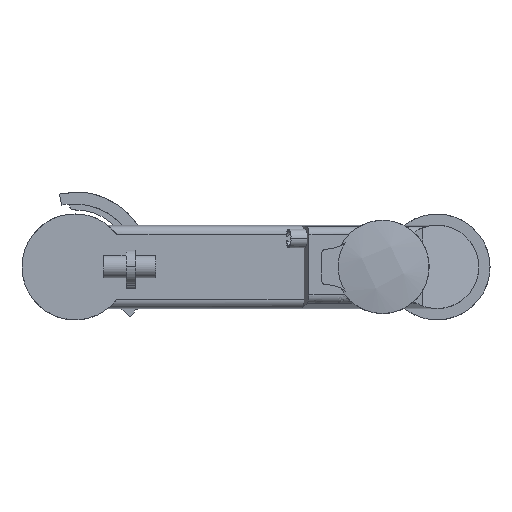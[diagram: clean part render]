
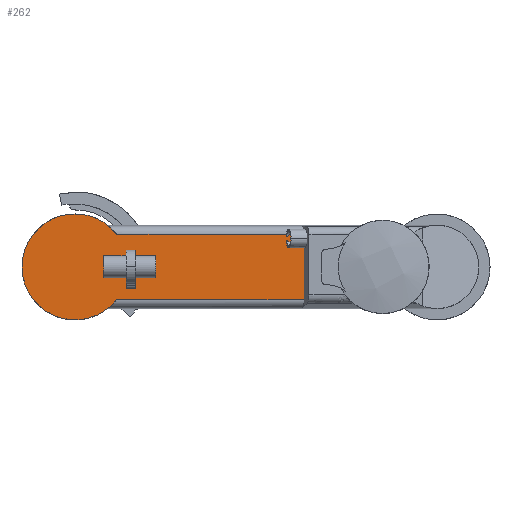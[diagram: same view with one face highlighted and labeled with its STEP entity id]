
A CAD part, top view. The second image highlights one B-rep face of the part: STEP entity #262.
In plain terms, the highlighted planar face has unit normal (0, 0, 1).
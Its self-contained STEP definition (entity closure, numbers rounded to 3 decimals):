
#13 = EDGE_CURVE ( 'NONE', #11864, #14, #3080, .T. ) ;
#14 = VERTEX_POINT ( 'NONE', #3081 ) ;
#18 = VERTEX_POINT ( 'NONE', #3124 ) ;
#19 = EDGE_CURVE ( 'NONE', #1159, #18, #3123, .T. ) ;
#38 = EDGE_CURVE ( 'NONE', #14, #1136, #3142, .T. ) ;
#236 = ORIENTED_EDGE ( 'NONE', *, *, #11726, .F. ) ;
#237 = ORIENTED_EDGE ( 'NONE', *, *, #11706, .F. ) ;
#238 = ORIENTED_EDGE ( 'NONE', *, *, #11672, .F. ) ;
#239 = ORIENTED_EDGE ( 'NONE', *, *, #11738, .F. ) ;
#240 = EDGE_LOOP ( 'NONE', ( #241, #242, #243, #244, #245, #246, #247, #248, #249, #250, #318, #319 ) ) ;
#241 = ORIENTED_EDGE ( 'NONE', *, *, #19, .F. ) ;
#242 = ORIENTED_EDGE ( 'NONE', *, *, #1138, .F. ) ;
#243 = ORIENTED_EDGE ( 'NONE', *, *, #38, .F. ) ;
#244 = ORIENTED_EDGE ( 'NONE', *, *, #13, .F. ) ;
#245 = ORIENTED_EDGE ( 'NONE', *, *, #11875, .F. ) ;
#246 = ORIENTED_EDGE ( 'NONE', *, *, #11789, .F. ) ;
#247 = ORIENTED_EDGE ( 'NONE', *, *, #1182, .F. ) ;
#248 = ORIENTED_EDGE ( 'NONE', *, *, #11876, .F. ) ;
#249 = ORIENTED_EDGE ( 'NONE', *, *, #11814, .F. ) ;
#250 = ORIENTED_EDGE ( 'NONE', *, *, #1202, .F. ) ;
#261 = EDGE_CURVE ( 'NONE', #18, #11783, #3864, .T. ) ;
#262 = ADVANCED_FACE ( 'NONE', ( #3921, #3920 ), #3905, .F. ) ;
#318 = ORIENTED_EDGE ( 'NONE', *, *, #11776, .F. ) ;
#319 = ORIENTED_EDGE ( 'NONE', *, *, #261, .F. ) ;
#320 = EDGE_LOOP ( 'NONE', ( #236, #237, #238, #239 ) ) ;
#1136 = VERTEX_POINT ( 'NONE', #7160 ) ;
#1138 = EDGE_CURVE ( 'NONE', #1136, #1159, #7157, .T. ) ;
#1159 = VERTEX_POINT ( 'NONE', #7236 ) ;
#1180 = VERTEX_POINT ( 'NONE', #7322 ) ;
#1182 = EDGE_CURVE ( 'NONE', #1180, #1183, #7321, .T. ) ;
#1183 = VERTEX_POINT ( 'NONE', #7320 ) ;
#1200 = VERTEX_POINT ( 'NONE', #7433 ) ;
#1202 = EDGE_CURVE ( 'NONE', #1200, #1203, #7432, .T. ) ;
#1203 = VERTEX_POINT ( 'NONE', #7427 ) ;
#1835 = DIRECTION ( 'NONE',  ( 1., 0., 0. ) ) ;
#1836 = VECTOR ( 'NONE', #1835, 1000. ) ;
#1837 = CARTESIAN_POINT ( 'NONE',  ( 0., -60.759, 387. ) ) ;
#1838 = LINE ( 'NONE', #1837, #1836 ) ;
#1847 = CARTESIAN_POINT ( 'NONE',  ( 216.5, -60.759, 387. ) ) ;
#1869 = CARTESIAN_POINT ( 'NONE',  ( 183.5, -60.759, 387. ) ) ;
#1895 = DIRECTION ( 'NONE',  ( 0., 1., 0. ) ) ;
#1896 = VECTOR ( 'NONE', #1895, 1000. ) ;
#1897 = CARTESIAN_POINT ( 'NONE',  ( 216.5, 0., 387. ) ) ;
#1898 = LINE ( 'NONE', #1897, #1896 ) ;
#1900 = CARTESIAN_POINT ( 'NONE',  ( 216.5, 60.25, 387. ) ) ;
#1993 = DIRECTION ( 'NONE',  ( -1., 0., 0. ) ) ;
#1994 = VECTOR ( 'NONE', #1993, 1000. ) ;
#1995 = CARTESIAN_POINT ( 'NONE',  ( 0., 60.25, 387. ) ) ;
#1997 = LINE ( 'NONE', #1995, #1994 ) ;
#2031 = DIRECTION ( 'NONE',  ( 0., -1., 0. ) ) ;
#2032 = VECTOR ( 'NONE', #2031, 1000. ) ;
#2033 = CARTESIAN_POINT ( 'NONE',  ( 183.5, 0., 387. ) ) ;
#2034 = LINE ( 'NONE', #2033, #2032 ) ;
#2036 = CARTESIAN_POINT ( 'NONE',  ( 183.5, 60.25, 387. ) ) ;
#2138 = LINE ( 'NONE', #2182, #2181 ) ;
#2140 = CARTESIAN_POINT ( 'NONE',  ( 149.14, -118.224, 387. ) ) ;
#2141 = DIRECTION ( 'NONE',  ( -1., 0., 0. ) ) ;
#2142 = DIRECTION ( 'NONE',  ( 0., 0., -1. ) ) ;
#2143 = CARTESIAN_POINT ( 'NONE',  ( 0., 0., 387. ) ) ;
#2144 = AXIS2_PLACEMENT_3D ( 'NONE', #2143, #2142, #2141 ) ;
#2145 = CIRCLE ( 'NONE', #2144, 190.314 ) ;
#2156 = CARTESIAN_POINT ( 'NONE',  ( 759.949, 116.839, 387. ) ) ;
#2179 = CARTESIAN_POINT ( 'NONE',  ( 822.583, 116.839, 387. ) ) ;
#2180 = DIRECTION ( 'NONE',  ( 1., 0., 0. ) ) ;
#2181 = VECTOR ( 'NONE', #2180, 1000. ) ;
#2182 = CARTESIAN_POINT ( 'NONE',  ( 0., 116.839, 387. ) ) ;
#2205 = DIRECTION ( 'NONE',  ( 1., 0., 0. ) ) ;
#2206 = VECTOR ( 'NONE', #2205, 1000. ) ;
#2207 = CARTESIAN_POINT ( 'NONE',  ( 0., 116.839, 387. ) ) ;
#2208 = LINE ( 'NONE', #2207, #2206 ) ;
#2269 = CARTESIAN_POINT ( 'NONE',  ( 822.583, 76.169, 387. ) ) ;
#2280 = LINE ( 'NONE', #2329, #2328 ) ;
#2322 = DIRECTION ( 'NONE',  ( 0., -1., 0. ) ) ;
#2323 = VECTOR ( 'NONE', #2322, 1000. ) ;
#2324 = CARTESIAN_POINT ( 'NONE',  ( 759.949, 0., 387. ) ) ;
#2325 = LINE ( 'NONE', #2324, #2323 ) ;
#2327 = DIRECTION ( 'NONE',  ( 0., -1., 0. ) ) ;
#2328 = VECTOR ( 'NONE', #2327, 1000. ) ;
#2329 = CARTESIAN_POINT ( 'NONE',  ( 822.583, 0., 387. ) ) ;
#3078 = CARTESIAN_POINT ( 'NONE',  ( 790.451, 79.771, 387. ) ) ;
#3079 = CARTESIAN_POINT ( 'NONE',  ( 822.583, 76.169, 387. ) ) ;
#3080 =( BOUNDED_CURVE ( )  B_SPLINE_CURVE ( 3, ( #3079, #3078, #3126, #3125 ),
 .UNSPECIFIED., .F., .T. ) 
 B_SPLINE_CURVE_WITH_KNOTS ( ( 4, 4 ),
 ( 5.121, 6.052 ),
 .UNSPECIFIED. ) 
 CURVE ( )  GEOMETRIC_REPRESENTATION_ITEM ( )  RATIONAL_B_SPLINE_CURVE ( ( 1., 0.929, 0.929, 1. ) ) 
 REPRESENTATION_ITEM ( '' )  );
#3081 = CARTESIAN_POINT ( 'NONE',  ( 759.949, 95.544, 387. ) ) ;
#3120 = DIRECTION ( 'NONE',  ( 0., -1., 0. ) ) ;
#3121 = VECTOR ( 'NONE', #3120, 1000. ) ;
#3122 = CARTESIAN_POINT ( 'NONE',  ( 822.583, 0., 387. ) ) ;
#3123 = LINE ( 'NONE', #3122, #3121 ) ;
#3124 = CARTESIAN_POINT ( 'NONE',  ( 822.583, -118.224, 387. ) ) ;
#3125 = CARTESIAN_POINT ( 'NONE',  ( 759.949, 95.544, 387. ) ) ;
#3126 = CARTESIAN_POINT ( 'NONE',  ( 767.98, 86.722, 387. ) ) ;
#3139 = DIRECTION ( 'NONE',  ( 0., -1., 0. ) ) ;
#3140 = VECTOR ( 'NONE', #3139, 1000. ) ;
#3141 = CARTESIAN_POINT ( 'NONE',  ( 759.949, 0., 387. ) ) ;
#3142 = LINE ( 'NONE', #3141, #3140 ) ;
#3864 = LINE ( 'NONE', #3924, #3923 ) ;
#3900 = DIRECTION ( 'NONE',  ( -1., 0., 0. ) ) ;
#3901 = DIRECTION ( 'NONE',  ( 0., 0., -1. ) ) ;
#3902 = CARTESIAN_POINT ( 'NONE',  ( 0., 0., 387. ) ) ;
#3903 = AXIS2_PLACEMENT_3D ( 'NONE', #3902, #3901, #3900 ) ;
#3905 = PLANE ( 'NONE',  #3903 ) ;
#3920 = FACE_BOUND ( 'NONE', #320, .T. ) ;
#3921 = FACE_OUTER_BOUND ( 'NONE', #240, .T. ) ;
#3922 = DIRECTION ( 'NONE',  ( -1., 0., 0. ) ) ;
#3923 = VECTOR ( 'NONE', #3922, 1000. ) ;
#3924 = CARTESIAN_POINT ( 'NONE',  ( 0., -118.224, 387. ) ) ;
#7152 = CARTESIAN_POINT ( 'NONE',  ( 822.583, 70.318, 387. ) ) ;
#7153 = CARTESIAN_POINT ( 'NONE',  ( 797.126, 72.644, 387. ) ) ;
#7154 = CARTESIAN_POINT ( 'NONE',  ( 775.576, 76.854, 387. ) ) ;
#7155 = CARTESIAN_POINT ( 'NONE',  ( 759.949, 82.552, 387. ) ) ;
#7157 =( BOUNDED_CURVE ( )  B_SPLINE_CURVE ( 3, ( #7155, #7154, #7153, #7152 ),
 .UNSPECIFIED., .F., .T. ) 
 B_SPLINE_CURVE_WITH_KNOTS ( ( 4, 4 ),
 ( 0.617, 1.231 ),
 .UNSPECIFIED. ) 
 CURVE ( )  GEOMETRIC_REPRESENTATION_ITEM ( )  RATIONAL_B_SPLINE_CURVE ( ( 1., 0.969, 0.969, 1. ) ) 
 REPRESENTATION_ITEM ( '' )  );
#7160 = CARTESIAN_POINT ( 'NONE',  ( 759.949, 82.552, 387. ) ) ;
#7236 = CARTESIAN_POINT ( 'NONE',  ( 822.583, 70.318, 387. ) ) ;
#7316 = CARTESIAN_POINT ( 'NONE',  ( 773.388, 116.839, 387. ) ) ;
#7317 = CARTESIAN_POINT ( 'NONE',  ( 767.172, 114.246, 387. ) ) ;
#7318 = CARTESIAN_POINT ( 'NONE',  ( 762.653, 111.427, 387. ) ) ;
#7319 = CARTESIAN_POINT ( 'NONE',  ( 759.949, 108.456, 387. ) ) ;
#7320 = CARTESIAN_POINT ( 'NONE',  ( 773.388, 116.839, 387. ) ) ;
#7321 =( BOUNDED_CURVE ( )  B_SPLINE_CURVE ( 3, ( #7319, #7318, #7317, #7316 ),
 .UNSPECIFIED., .F., .F. ) 
 B_SPLINE_CURVE_WITH_KNOTS ( ( 4, 4 ),
 ( 0.231, 0.555 ),
 .UNSPECIFIED. ) 
 CURVE ( )  GEOMETRIC_REPRESENTATION_ITEM ( )  RATIONAL_B_SPLINE_CURVE ( ( 1., 0.991, 0.991, 1. ) ) 
 REPRESENTATION_ITEM ( '' )  );
#7322 = CARTESIAN_POINT ( 'NONE',  ( 759.949, 108.456, 387. ) ) ;
#7427 = CARTESIAN_POINT ( 'NONE',  ( 150.227, 116.839, 387. ) ) ;
#7428 = DIRECTION ( 'NONE',  ( -1., 0., 0. ) ) ;
#7429 = DIRECTION ( 'NONE',  ( 0., 0., -1. ) ) ;
#7430 = CARTESIAN_POINT ( 'NONE',  ( 0., 0., 387. ) ) ;
#7431 = AXIS2_PLACEMENT_3D ( 'NONE', #7430, #7429, #7428 ) ;
#7432 = CIRCLE ( 'NONE', #7431, 190.314 ) ;
#7433 = CARTESIAN_POINT ( 'NONE',  ( -190.314, 0., 387. ) ) ;
#11662 = VERTEX_POINT ( 'NONE', #1847 ) ;
#11672 = EDGE_CURVE ( 'NONE', #11687, #11662, #1838, .T. ) ;
#11687 = VERTEX_POINT ( 'NONE', #1869 ) ;
#11705 = VERTEX_POINT ( 'NONE', #1900 ) ;
#11706 = EDGE_CURVE ( 'NONE', #11662, #11705, #1898, .T. ) ;
#11726 = EDGE_CURVE ( 'NONE', #11705, #11736, #1997, .T. ) ;
#11736 = VERTEX_POINT ( 'NONE', #2036 ) ;
#11738 = EDGE_CURVE ( 'NONE', #11736, #11687, #2034, .T. ) ;
#11771 = VERTEX_POINT ( 'NONE', #2156 ) ;
#11776 = EDGE_CURVE ( 'NONE', #11783, #1200, #2145, .T. ) ;
#11783 = VERTEX_POINT ( 'NONE', #2140 ) ;
#11789 = EDGE_CURVE ( 'NONE', #1183, #11793, #2138, .T. ) ;
#11793 = VERTEX_POINT ( 'NONE', #2179 ) ;
#11814 = EDGE_CURVE ( 'NONE', #1203, #11771, #2208, .T. ) ;
#11864 = VERTEX_POINT ( 'NONE', #2269 ) ;
#11875 = EDGE_CURVE ( 'NONE', #11793, #11864, #2280, .T. ) ;
#11876 = EDGE_CURVE ( 'NONE', #11771, #1180, #2325, .T. ) ;
